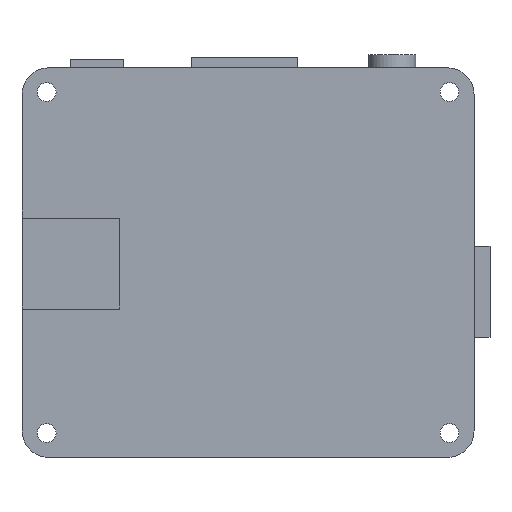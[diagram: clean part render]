
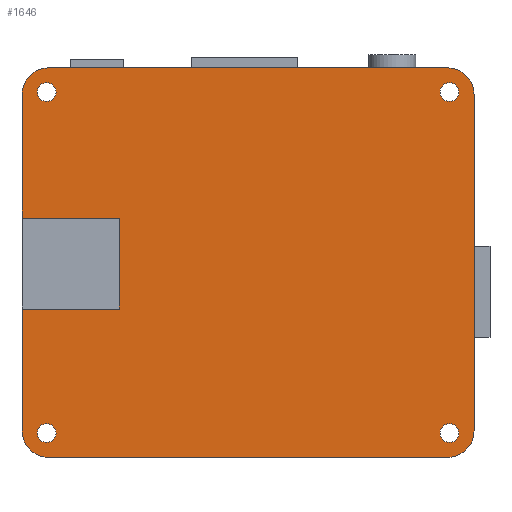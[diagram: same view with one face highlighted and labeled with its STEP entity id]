
A CAD part, front view. The second image highlights one B-rep face of the part: STEP entity #1646.
In plain terms, the highlighted planar face has unit normal (0, -1, 0).
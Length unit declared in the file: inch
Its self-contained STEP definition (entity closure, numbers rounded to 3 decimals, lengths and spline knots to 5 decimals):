
#4 = ORIENTED_EDGE ( 'NONE', *, *, #873, .F. ) ;
#7 = FACE_BOUND ( 'NONE', #1535, .T. ) ;
#11 = CIRCLE ( 'NONE', #608, 0.15 ) ;
#21 = DIRECTION ( 'NONE',  ( 0., -1., 0. ) ) ;
#33 = CARTESIAN_POINT ( 'NONE',  ( -1.14, 0., 1.01825 ) ) ;
#55 = EDGE_CURVE ( 'NONE', #1633, #205, #1448, .T. ) ;
#63 = AXIS2_PLACEMENT_3D ( 'NONE', #1347, #512, #1490 ) ;
#70 = EDGE_CURVE ( 'NONE', #1309, #1309, #516, .T. ) ;
#105 = VERTEX_POINT ( 'NONE', #571 ) ;
#117 = ORIENTED_EDGE ( 'NONE', *, *, #1641, .F. ) ;
#122 = CARTESIAN_POINT ( 'NONE',  ( -1.27953, 0., -0.26264 ) ) ;
#129 = EDGE_CURVE ( 'NONE', #1715, #1827, #470, .T. ) ;
#162 = EDGE_LOOP ( 'NONE', ( #466 ) ) ;
#176 = DIRECTION ( 'NONE',  ( 0., 0., 1. ) ) ;
#190 = VECTOR ( 'NONE', #1695, 39.37008 ) ;
#197 = EDGE_LOOP ( 'NONE', ( #427 ) ) ;
#204 = LINE ( 'NONE', #477, #1659 ) ;
#205 = VERTEX_POINT ( 'NONE', #1046 ) ;
#213 = EDGE_CURVE ( 'NONE', #559, #559, #282, .T. ) ;
#232 = EDGE_CURVE ( 'NONE', #1401, #596, #1413, .T. ) ;
#243 = AXIS2_PLACEMENT_3D ( 'NONE', #1558, #439, #1554 ) ;
#267 = AXIS2_PLACEMENT_3D ( 'NONE', #592, #310, #471 ) ;
#277 = EDGE_CURVE ( 'NONE', #1299, #1726, #11, .T. ) ;
#278 = CIRCLE ( 'NONE', #1134, 0.15 ) ;
#282 = CIRCLE ( 'NONE', #1617, 0.05325 ) ;
#289 = CARTESIAN_POINT ( 'NONE',  ( -0.72953, 0., 0.25236 ) ) ;
#310 = DIRECTION ( 'NONE',  ( 0., 1., 0. ) ) ;
#323 = DIRECTION ( 'NONE',  ( 0., 0., 1. ) ) ;
#326 = CARTESIAN_POINT ( 'NONE',  ( 1.14, 0., -0.91175 ) ) ;
#327 = FACE_OUTER_BOUND ( 'NONE', #923, .T. ) ;
#354 = CARTESIAN_POINT ( 'NONE',  ( 1.27953, 0., 1.10236 ) ) ;
#367 = DIRECTION ( 'NONE',  ( 0., 1., 0. ) ) ;
#371 = PLANE ( 'NONE',  #63 ) ;
#378 = VERTEX_POINT ( 'NONE', #1016 ) ;
#426 = VERTEX_POINT ( 'NONE', #1804 ) ;
#427 = ORIENTED_EDGE ( 'NONE', *, *, #213, .T. ) ;
#439 = DIRECTION ( 'NONE',  ( 0., 1., 0. ) ) ;
#461 = EDGE_CURVE ( 'NONE', #378, #378, #763, .T. ) ;
#466 = ORIENTED_EDGE ( 'NONE', *, *, #1750, .T. ) ;
#470 = LINE ( 'NONE', #1409, #546 ) ;
#471 = DIRECTION ( 'NONE',  ( 0., 0., 1. ) ) ;
#477 = CARTESIAN_POINT ( 'NONE',  ( -1.27953, 0., 1.10236 ) ) ;
#479 = CARTESIAN_POINT ( 'NONE',  ( -1.12953, 0., 1.10236 ) ) ;
#495 = DIRECTION ( 'NONE',  ( 0., -1., 0. ) ) ;
#501 = DIRECTION ( 'NONE',  ( 0., 0., 1. ) ) ;
#512 = DIRECTION ( 'NONE',  ( 0., 1., 0. ) ) ;
#515 = CARTESIAN_POINT ( 'NONE',  ( 1.14, 0., 0.965 ) ) ;
#516 = CIRCLE ( 'NONE', #243, 0.05325 ) ;
#530 = CARTESIAN_POINT ( 'NONE',  ( -1.27953, 0., 0.95236 ) ) ;
#539 = DIRECTION ( 'NONE',  ( 0., 0., 1. ) ) ;
#546 = VECTOR ( 'NONE', #1421, 39.37008 ) ;
#559 = VERTEX_POINT ( 'NONE', #1020 ) ;
#571 = CARTESIAN_POINT ( 'NONE',  ( -1.27953, 0., -0.95236 ) ) ;
#573 = CARTESIAN_POINT ( 'NONE',  ( -1.12953, 0., 0.95236 ) ) ;
#592 = CARTESIAN_POINT ( 'NONE',  ( 1.14, 0., -0.965 ) ) ;
#596 = VERTEX_POINT ( 'NONE', #1098 ) ;
#608 = AXIS2_PLACEMENT_3D ( 'NONE', #573, #21, #176 ) ;
#620 = CARTESIAN_POINT ( 'NONE',  ( -1.27953, 0., 1.10236 ) ) ;
#622 = ORIENTED_EDGE ( 'NONE', *, *, #232, .F. ) ;
#631 = CIRCLE ( 'NONE', #694, 0.15 ) ;
#632 = CARTESIAN_POINT ( 'NONE',  ( -1.14, 0., -0.965 ) ) ;
#661 = VECTOR ( 'NONE', #1377, 39.37008 ) ;
#670 = CARTESIAN_POINT ( 'NONE',  ( 1.12953, 0., -1.10236 ) ) ;
#683 = DIRECTION ( 'NONE',  ( 0., 0., 1. ) ) ;
#689 = ORIENTED_EDGE ( 'NONE', *, *, #70, .T. ) ;
#694 = AXIS2_PLACEMENT_3D ( 'NONE', #1320, #1338, #501 ) ;
#715 = AXIS2_PLACEMENT_3D ( 'NONE', #1249, #968, #683 ) ;
#763 = CIRCLE ( 'NONE', #1070, 0.05325 ) ;
#767 = ORIENTED_EDGE ( 'NONE', *, *, #1287, .T. ) ;
#778 = EDGE_CURVE ( 'NONE', #105, #426, #1567, .T. ) ;
#814 = DIRECTION ( 'NONE',  ( 0., 0., -1. ) ) ;
#829 = EDGE_CURVE ( 'NONE', #596, #1343, #1261, .T. ) ;
#873 = EDGE_CURVE ( 'NONE', #426, #1401, #952, .T. ) ;
#876 = ORIENTED_EDGE ( 'NONE', *, *, #1481, .T. ) ;
#877 = VECTOR ( 'NONE', #881, 39.37008 ) ;
#881 = DIRECTION ( 'NONE',  ( -1., 0., 0. ) ) ;
#888 = FACE_BOUND ( 'NONE', #1623, .T. ) ;
#916 = ORIENTED_EDGE ( 'NONE', *, *, #55, .F. ) ;
#923 = EDGE_LOOP ( 'NONE', ( #4, #1117, #876, #1430, #767, #916, #1616, #117, #1371, #1122, #1774, #622 ) ) ;
#939 = CARTESIAN_POINT ( 'NONE',  ( 1.12953, 0., 1.10236 ) ) ;
#952 = LINE ( 'NONE', #122, #661 ) ;
#968 = DIRECTION ( 'NONE',  ( 0., -1., 0. ) ) ;
#1005 = CIRCLE ( 'NONE', #715, 0.15 ) ;
#1016 = CARTESIAN_POINT ( 'NONE',  ( 1.14, 0., 1.01825 ) ) ;
#1020 = CARTESIAN_POINT ( 'NONE',  ( -1.14, 0., -0.91175 ) ) ;
#1024 = LINE ( 'NONE', #354, #1332 ) ;
#1033 = DIRECTION ( 'NONE',  ( 0., 0., 1. ) ) ;
#1046 = CARTESIAN_POINT ( 'NONE',  ( 1.27953, 0., -0.95236 ) ) ;
#1060 = DIRECTION ( 'NONE',  ( 1., 0., 0. ) ) ;
#1068 = CARTESIAN_POINT ( 'NONE',  ( -1.27953, 0., 0.25236 ) ) ;
#1070 = AXIS2_PLACEMENT_3D ( 'NONE', #515, #1519, #539 ) ;
#1081 = CARTESIAN_POINT ( 'NONE',  ( -0.72953, 0., -0.26264 ) ) ;
#1098 = CARTESIAN_POINT ( 'NONE',  ( -0.72953, 0., 0.25236 ) ) ;
#1117 = ORIENTED_EDGE ( 'NONE', *, *, #778, .F. ) ;
#1122 = ORIENTED_EDGE ( 'NONE', *, *, #1732, .F. ) ;
#1125 = FACE_BOUND ( 'NONE', #197, .T. ) ;
#1134 = AXIS2_PLACEMENT_3D ( 'NONE', #1176, #495, #1033 ) ;
#1140 = VERTEX_POINT ( 'NONE', #326 ) ;
#1176 = CARTESIAN_POINT ( 'NONE',  ( 1.12953, 0., 0.95236 ) ) ;
#1211 = DIRECTION ( 'NONE',  ( 0., 0., 1. ) ) ;
#1213 = ORIENTED_EDGE ( 'NONE', *, *, #461, .T. ) ;
#1241 = EDGE_CURVE ( 'NONE', #1633, #1711, #278, .T. ) ;
#1249 = CARTESIAN_POINT ( 'NONE',  ( -1.12953, 0., -0.95236 ) ) ;
#1261 = LINE ( 'NONE', #1582, #877 ) ;
#1287 = EDGE_CURVE ( 'NONE', #1715, #205, #631, .T. ) ;
#1299 = VERTEX_POINT ( 'NONE', #479 ) ;
#1309 = VERTEX_POINT ( 'NONE', #33 ) ;
#1315 = VECTOR ( 'NONE', #814, 39.37008 ) ;
#1320 = CARTESIAN_POINT ( 'NONE',  ( 1.12953, 0., -0.95236 ) ) ;
#1332 = VECTOR ( 'NONE', #1060, 39.37008 ) ;
#1338 = DIRECTION ( 'NONE',  ( 0., -1., 0. ) ) ;
#1343 = VERTEX_POINT ( 'NONE', #1068 ) ;
#1347 = CARTESIAN_POINT ( 'NONE',  ( 0., 0., 0. ) ) ;
#1371 = ORIENTED_EDGE ( 'NONE', *, *, #277, .T. ) ;
#1373 = VECTOR ( 'NONE', #323, 39.37008 ) ;
#1377 = DIRECTION ( 'NONE',  ( 1., 0., 0. ) ) ;
#1401 = VERTEX_POINT ( 'NONE', #1081 ) ;
#1409 = CARTESIAN_POINT ( 'NONE',  ( 1.27953, 0., -1.10236 ) ) ;
#1413 = LINE ( 'NONE', #289, #190 ) ;
#1421 = DIRECTION ( 'NONE',  ( -1., 0., 0. ) ) ;
#1430 = ORIENTED_EDGE ( 'NONE', *, *, #129, .F. ) ;
#1434 = CARTESIAN_POINT ( 'NONE',  ( -1.12953, 0., -1.10236 ) ) ;
#1448 = LINE ( 'NONE', #1672, #1315 ) ;
#1481 = EDGE_CURVE ( 'NONE', #105, #1827, #1005, .T. ) ;
#1490 = DIRECTION ( 'NONE',  ( 0., 0., 1. ) ) ;
#1519 = DIRECTION ( 'NONE',  ( 0., 1., 0. ) ) ;
#1527 = FACE_BOUND ( 'NONE', #162, .T. ) ;
#1535 = EDGE_LOOP ( 'NONE', ( #1213 ) ) ;
#1554 = DIRECTION ( 'NONE',  ( 0., 0., 1. ) ) ;
#1558 = CARTESIAN_POINT ( 'NONE',  ( -1.14, 0., 0.965 ) ) ;
#1567 = LINE ( 'NONE', #620, #1373 ) ;
#1582 = CARTESIAN_POINT ( 'NONE',  ( -1.27953, 0., 0.25236 ) ) ;
#1616 = ORIENTED_EDGE ( 'NONE', *, *, #1241, .T. ) ;
#1617 = AXIS2_PLACEMENT_3D ( 'NONE', #632, #367, #1211 ) ;
#1623 = EDGE_LOOP ( 'NONE', ( #689 ) ) ;
#1633 = VERTEX_POINT ( 'NONE', #1754 ) ;
#1641 = EDGE_CURVE ( 'NONE', #1299, #1711, #1024, .T. ) ;
#1646 = ADVANCED_FACE ( 'NONE', ( #1527, #7, #888, #1125, #327 ), #371, .F. ) ;
#1659 = VECTOR ( 'NONE', #1729, 39.37008 ) ;
#1672 = CARTESIAN_POINT ( 'NONE',  ( 1.27953, 0., 1.10236 ) ) ;
#1695 = DIRECTION ( 'NONE',  ( 0., 0., 1. ) ) ;
#1711 = VERTEX_POINT ( 'NONE', #939 ) ;
#1715 = VERTEX_POINT ( 'NONE', #670 ) ;
#1726 = VERTEX_POINT ( 'NONE', #530 ) ;
#1729 = DIRECTION ( 'NONE',  ( 0., 0., 1. ) ) ;
#1732 = EDGE_CURVE ( 'NONE', #1343, #1726, #204, .T. ) ;
#1750 = EDGE_CURVE ( 'NONE', #1140, #1140, #1820, .T. ) ;
#1754 = CARTESIAN_POINT ( 'NONE',  ( 1.27953, 0., 0.95236 ) ) ;
#1774 = ORIENTED_EDGE ( 'NONE', *, *, #829, .F. ) ;
#1804 = CARTESIAN_POINT ( 'NONE',  ( -1.27953, 0., -0.26264 ) ) ;
#1820 = CIRCLE ( 'NONE', #267, 0.05325 ) ;
#1827 = VERTEX_POINT ( 'NONE', #1434 ) ;
